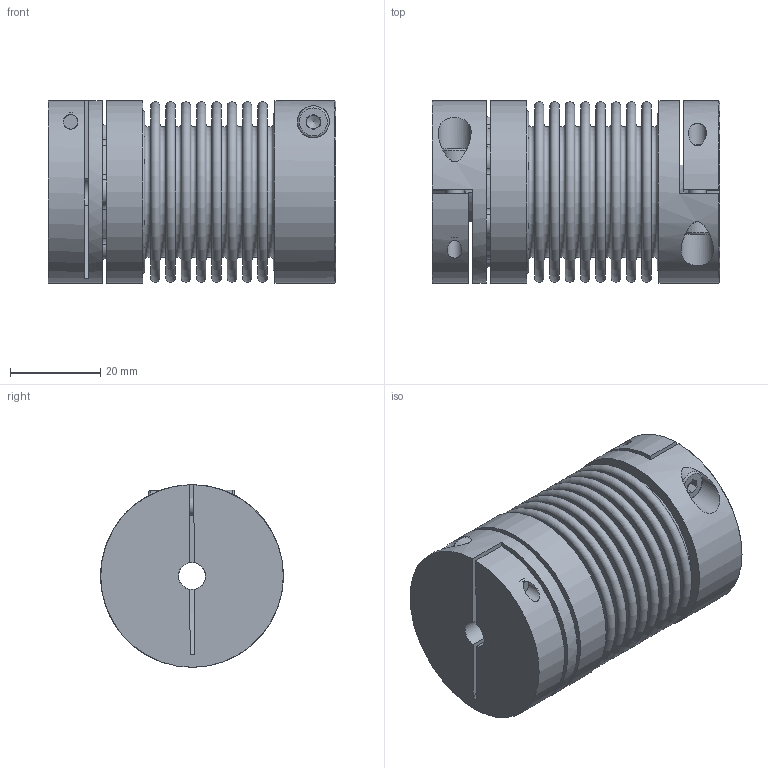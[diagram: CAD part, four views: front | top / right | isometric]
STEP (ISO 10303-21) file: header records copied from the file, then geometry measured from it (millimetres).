
FILE_DESCRIPTION( ( 'KBE1/14 - N7H8 - N14H7 - 98 Sh' ), '1' );
FILE_NAME( 'K:/Konstruktion/Fertigungszeichnungen/Metallbalgkupplung/KB2P/100/KB2P - 100 - 66.stp', '14.12.2015', ( 'KBK-Antriebstechnik' ), ( 'KBK-Antriebstechnik' ), 'PSStep 16.0.42', 'Solid Edge St6', ' ' );
FILE_SCHEMA( ( 'AUTOMOTIVE_DESIGN { 1 0 10303 214 1 1 1 1 }' ) );
Length unit declared in the file: millimetre
Products named in the file (6): Assem1; Stecknabe KB2P-100; KN10_Standard_8; Socket Head Cap Screw_DIN_DIN 912 M4 x 16 --- 16N; Balgaufnahme KB2P-100 für Step; BL100_Standard_1
Assembly tree (6 placements, depth 2):
  Assem1
    Stecknabe KB2P-100
    KN10_Standard_8
    Socket Head Cap Screw_DIN_DIN 912 M4 x 16 --- 16N  x2
    Balgaufnahme KB2P-100 für Step
    BL100_Standard_1
Bounding box: 63.8 x 40.5 x 40.5 mm (x, y, z)
Volume: 46098.5 mm3; surface area: 42794.4 mm2
Topology: 6 solids, 6 shells, 210 faces, 461 edges, 302 vertices
Faces by surface type: plane 89, cone 55, torus 42, cylinder 24
Full cylindrical faces by diameter (mm): 3.242 x1, 4 x3, 4.2 x2, 6 x2, 7 x2, 7.2 x1, 7.3 x1, 34.343 x1, 35.143 x1, 35.2 x1, 36 x1, 40.5 x3
Entity records: 6866 total; most frequent: CARTESIAN_POINT 1092, DIRECTION 952, ORIENTED_EDGE 690, AXIS2_PLACEMENT_3D 424, EDGE_CURVE 345, EDGE_LOOP 302, VERTEX_POINT 280, FACE_OUTER_BOUND 246
